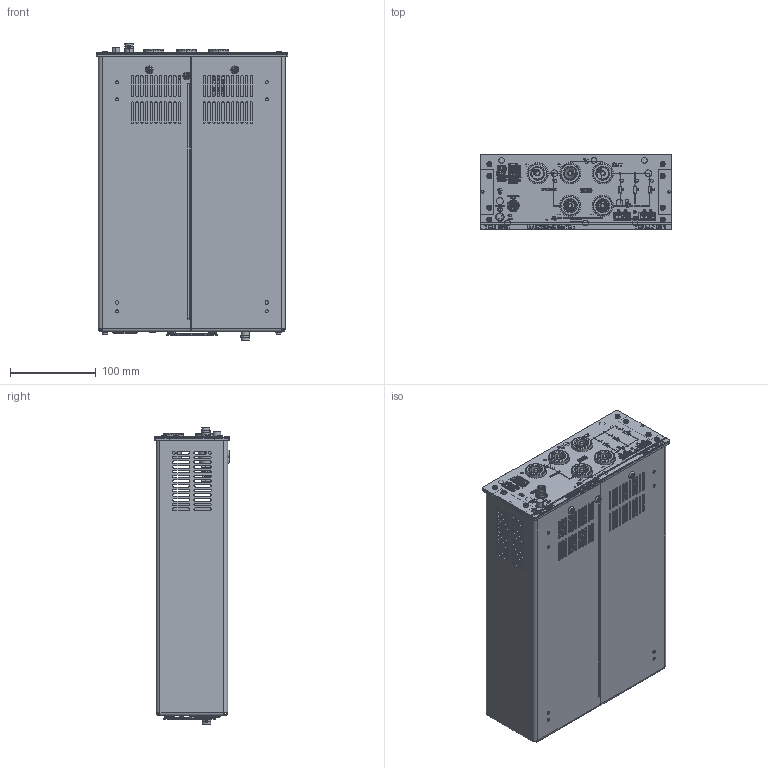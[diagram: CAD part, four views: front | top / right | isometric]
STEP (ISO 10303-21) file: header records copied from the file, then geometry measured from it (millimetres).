
FILE_DESCRIPTION (( 'STEP AP214' ), '1' );
FILE_NAME ('TOE 9261.STEP', '2017-02-02T12:21:38', ( 'KL_' ), ( '' ), 'SwSTEP 2.0', 'SolidWorks 2015', '' );
FILE_SCHEMA (( 'AUTOMOTIVE_DESIGN' ));
Length unit declared in the file: millimetre
Products named in the file (1): TOE 9261
Bounding box: 224 x 88.3 x 347 mm (x, y, z)
Surface area: 622262.6 mm2 (no closed solid volume)
Topology: 0 solids, 308 shells, 2383 faces, 12405 edges, 10046 vertices
Faces by surface type: plane 1352, cylinder 615, torus 150, cone 146, bspline 120
Entity records: 175190 total; most frequent: CARTESIAN_POINT 55213, DIRECTION 17720, ORIENTED_EDGE 16741, EDGE_CURVE 12367, VERTEX_POINT 10038, VECTOR 7518, LINE 7518, AXIS2_PLACEMENT_3D 5101
